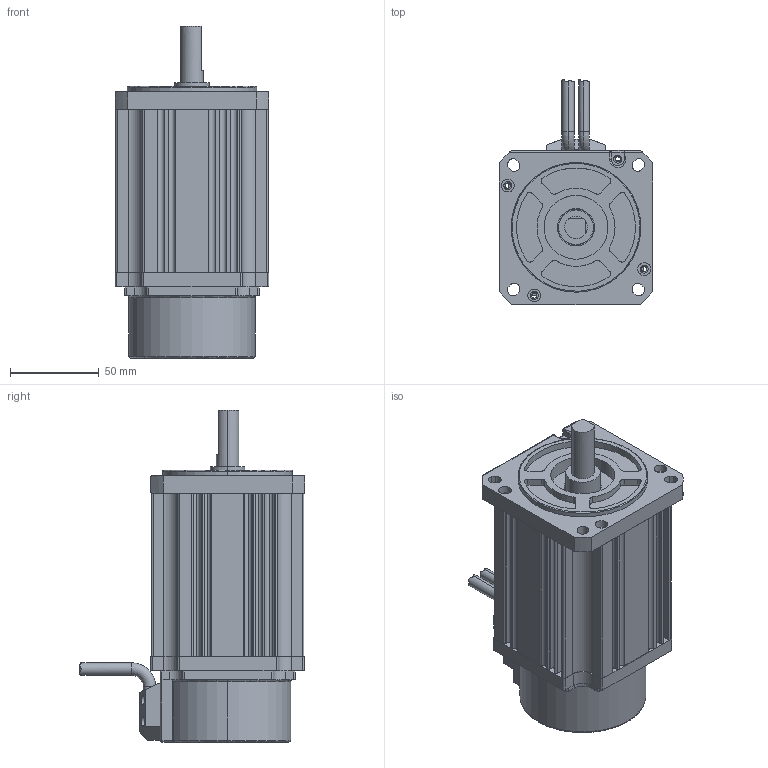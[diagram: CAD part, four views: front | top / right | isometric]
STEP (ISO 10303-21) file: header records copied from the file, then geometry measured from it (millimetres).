
FILE_DESCRIPTION (( 'STEP AP203' ), '1' );
FILE_NAME ('86N.STEP', '2010-06-05T05:19:15', ( '' ), ( '' ), 'SwSTEP 2.0', 'SolidWorks 2011', '' );
FILE_SCHEMA (( 'CONFIG_CONTROL_DESIGN' ));
Length unit declared in the file: millimetre
Products named in the file (1): 86N
Bounding box: 86.6 x 126.76 x 187 mm (x, y, z)
Volume: 385991.2 mm3; surface area: 178703.1 mm2
Topology: 10 solids, 10 shells, 694 faces, 1867 edges, 1198 vertices
Faces by surface type: cylinder 338, plane 266, bspline 64, cone 22, torus 4
Entity records: 26160 total; most frequent: CARTESIAN_POINT 8551, ORIENTED_EDGE 3704, DIRECTION 3649, EDGE_CURVE 1852, AXIS2_PLACEMENT_3D 1363, VERTEX_POINT 1198, VECTOR 923, LINE 923
